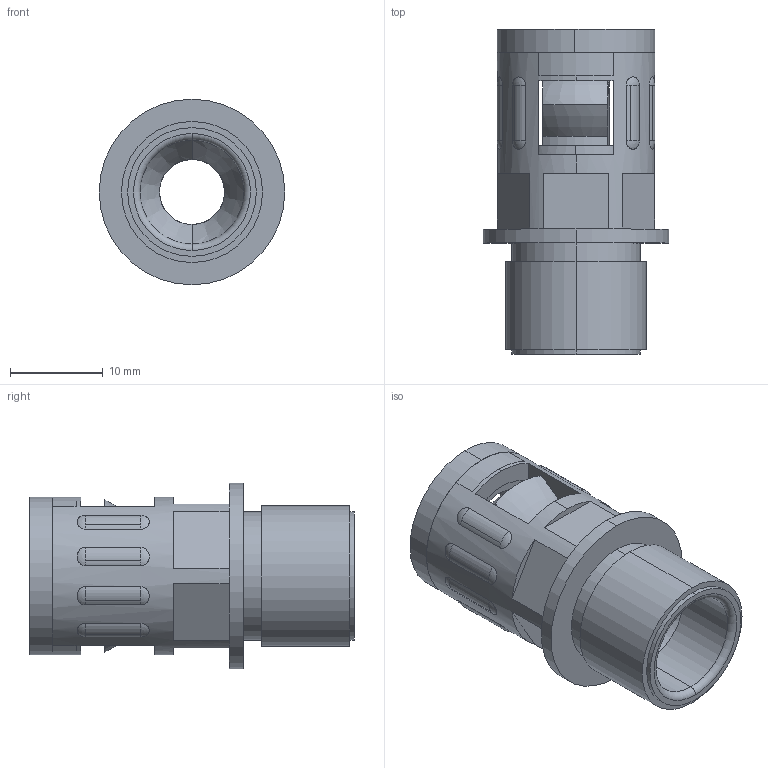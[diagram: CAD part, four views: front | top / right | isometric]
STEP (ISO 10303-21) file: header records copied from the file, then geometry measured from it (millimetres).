
FILE_DESCRIPTION (( 'STEP AP203' ), '1' );
FILE_NAME ('WQG-P09-AD10.0.STEP', '2020-03-12T00:44:47', ( '' ), ( '' ), 'SwSTEP 2.0', 'SolidWorks 2016', '' );
FILE_SCHEMA (( 'CONFIG_CONTROL_DESIGN' ));
Length unit declared in the file: millimetre
Products named in the file (4): NSK-AD10.0; WQG-P09-AD10.0; GFD-AD10.0; WQG-P09-AD10.0-01
Assembly tree (3 placements, depth 2):
  WQG-P09-AD10.0
    WQG-P09-AD10.0-01
    GFD-AD10.0
    NSK-AD10.0
Bounding box: 20 x 35 x 20 mm (x, y, z)
Volume: 3236.3 mm3; surface area: 5524.5 mm2
Topology: 2 solids, 5 shells, 183 faces, 479 edges, 298 vertices
Faces by surface type: plane 56, cone 47, cylinder 44, torus 20, sphere 16
Entity records: 6320 total; most frequent: CARTESIAN_POINT 1525, DIRECTION 976, ORIENTED_EDGE 890, EDGE_CURVE 447, AXIS2_PLACEMENT_3D 409, VERTEX_POINT 282, CIRCLE 219, EDGE_LOOP 206
